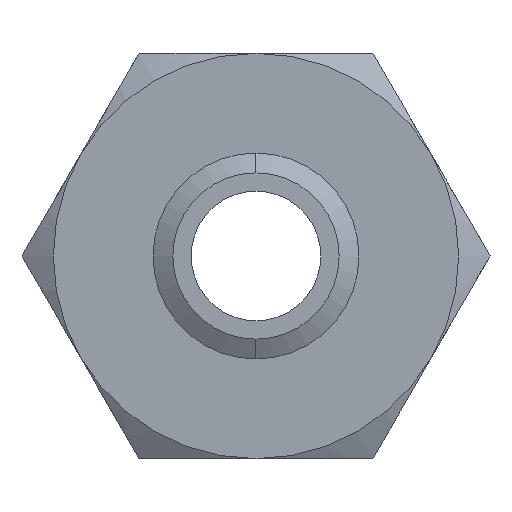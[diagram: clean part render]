
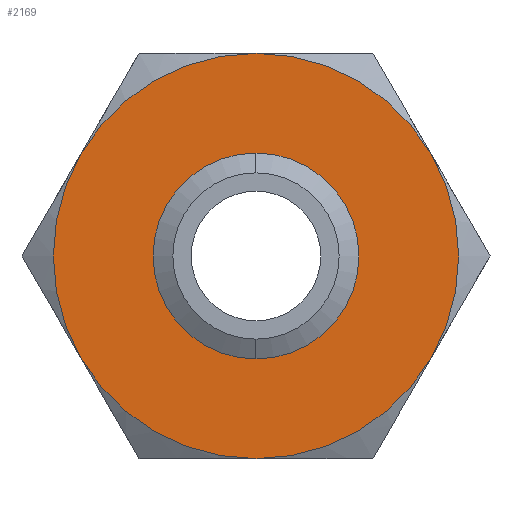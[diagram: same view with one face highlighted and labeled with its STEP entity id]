
A CAD part, front view. The second image highlights one B-rep face of the part: STEP entity #2169.
In plain terms, the highlighted planar face has unit normal (0, -1, 0).
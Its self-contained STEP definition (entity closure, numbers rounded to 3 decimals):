
#302 = VERTEX_POINT ( 'NONE', #956 ) ;
#319 = EDGE_CURVE ( 'NONE', #320, #302, #928, .T. ) ;
#320 = VERTEX_POINT ( 'NONE', #984 ) ;
#928 = CIRCLE ( 'NONE', #988, 15.387 ) ;
#956 = CARTESIAN_POINT ( 'NONE',  ( 0., 0., 15.387 ) ) ;
#963 = CARTESIAN_POINT ( 'NONE',  ( 0., 0., 0. ) ) ;
#964 = CARTESIAN_POINT ( 'NONE',  ( 0., 0., -37.5 ) ) ;
#965 = CARTESIAN_POINT ( 'NONE',  ( 0., 0., 37.5 ) ) ;
#966 = DIRECTION ( 'NONE',  ( 0., 0., 1. ) ) ;
#967 = DIRECTION ( 'NONE',  ( 0., 1., 0. ) ) ;
#968 = CARTESIAN_POINT ( 'NONE',  ( 0., 0., 0. ) ) ;
#969 = AXIS2_PLACEMENT_3D ( 'NONE', #968, #967, #966 ) ;
#970 = CIRCLE ( 'NONE', #969, 37.5 ) ;
#971 = CARTESIAN_POINT ( 'NONE',  ( -32.476, 0., -18.75 ) ) ;
#972 = DIRECTION ( 'NONE',  ( 0., 0., 1. ) ) ;
#973 = DIRECTION ( 'NONE',  ( 0., 1., 0. ) ) ;
#974 = CARTESIAN_POINT ( 'NONE',  ( 0., 0., 0. ) ) ;
#975 = AXIS2_PLACEMENT_3D ( 'NONE', #974, #973, #972 ) ;
#976 = CIRCLE ( 'NONE', #975, 37.5 ) ;
#984 = CARTESIAN_POINT ( 'NONE',  ( 0., 0., -15.387 ) ) ;
#985 = DIRECTION ( 'NONE',  ( 0., 0., -1. ) ) ;
#986 = DIRECTION ( 'NONE',  ( 0., -1., 0. ) ) ;
#987 = CARTESIAN_POINT ( 'NONE',  ( 0., 0., 0. ) ) ;
#988 = AXIS2_PLACEMENT_3D ( 'NONE', #987, #986, #985 ) ;
#992 = DIRECTION ( 'NONE',  ( 0., 0., 1. ) ) ;
#993 = DIRECTION ( 'NONE',  ( 0., 1., 0. ) ) ;
#994 = CARTESIAN_POINT ( 'NONE',  ( 0., 0., 0. ) ) ;
#995 = AXIS2_PLACEMENT_3D ( 'NONE', #994, #993, #992 ) ;
#996 = CIRCLE ( 'NONE', #995, 37.5 ) ;
#997 = DIRECTION ( 'NONE',  ( 0., 0., -1. ) ) ;
#998 = DIRECTION ( 'NONE',  ( 0., -1., 0. ) ) ;
#999 = CARTESIAN_POINT ( 'NONE',  ( 0., 0., 0. ) ) ;
#1000 = AXIS2_PLACEMENT_3D ( 'NONE', #999, #998, #997 ) ;
#1004 = CIRCLE ( 'NONE', #1000, 15.387 ) ;
#1014 = CARTESIAN_POINT ( 'NONE',  ( 32.476, 0., 18.75 ) ) ;
#1019 = DIRECTION ( 'NONE',  ( 0., 0., 1. ) ) ;
#1020 = DIRECTION ( 'NONE',  ( 0., 1., 0. ) ) ;
#1021 = AXIS2_PLACEMENT_3D ( 'NONE', #963, #1020, #1019 ) ;
#1022 = CIRCLE ( 'NONE', #1021, 37.5 ) ;
#1023 = DIRECTION ( 'NONE',  ( 0., 0., 1. ) ) ;
#1024 = DIRECTION ( 'NONE',  ( 0., 1., 0. ) ) ;
#1025 = CARTESIAN_POINT ( 'NONE',  ( 0., 0., 0. ) ) ;
#1026 = AXIS2_PLACEMENT_3D ( 'NONE', #1025, #1024, #1023 ) ;
#1027 = CIRCLE ( 'NONE', #1026, 37.5 ) ;
#1028 = CARTESIAN_POINT ( 'NONE',  ( -32.476, 0., 18.75 ) ) ;
#1037 = DIRECTION ( 'NONE',  ( 0., 0., 1. ) ) ;
#1038 = DIRECTION ( 'NONE',  ( 0., 1., 0. ) ) ;
#1039 = AXIS2_PLACEMENT_3D ( 'NONE', #1049, #1038, #1037 ) ;
#1040 = CIRCLE ( 'NONE', #1039, 37.5 ) ;
#1049 = CARTESIAN_POINT ( 'NONE',  ( 0., 0., 0. ) ) ;
#1052 = CARTESIAN_POINT ( 'NONE',  ( 32.476, 0., -18.75 ) ) ;
#1604 = DIRECTION ( 'NONE',  ( 0., 0., 1. ) ) ;
#1605 = DIRECTION ( 'NONE',  ( 0., 1., 0. ) ) ;
#1606 = CARTESIAN_POINT ( 'NONE',  ( 21.651, 0., -37.5 ) ) ;
#1607 = AXIS2_PLACEMENT_3D ( 'NONE', #1606, #1605, #1604 ) ;
#1608 = PLANE ( 'NONE',  #1607 ) ;
#1609 = FACE_BOUND ( 'NONE', #1851, .T. ) ;
#1615 = FACE_OUTER_BOUND ( 'NONE', #2166, .T. ) ;
#1831 = ORIENTED_EDGE ( 'NONE', *, *, #1834, .F. ) ;
#1832 = EDGE_CURVE ( 'NONE', #1871, #1836, #976, .T. ) ;
#1833 = VERTEX_POINT ( 'NONE', #971 ) ;
#1834 = EDGE_CURVE ( 'NONE', #1833, #1871, #970, .T. ) ;
#1835 = ORIENTED_EDGE ( 'NONE', *, *, #1832, .F. ) ;
#1836 = VERTEX_POINT ( 'NONE', #965 ) ;
#1837 = VERTEX_POINT ( 'NONE', #964 ) ;
#1839 = EDGE_CURVE ( 'NONE', #1836, #1842, #1022, .T. ) ;
#1842 = VERTEX_POINT ( 'NONE', #1014 ) ;
#1845 = ORIENTED_EDGE ( 'NONE', *, *, #319, .F. ) ;
#1847 = EDGE_CURVE ( 'NONE', #302, #320, #1004, .T. ) ;
#1848 = ORIENTED_EDGE ( 'NONE', *, *, #1847, .F. ) ;
#1849 = EDGE_CURVE ( 'NONE', #1842, #1854, #996, .T. ) ;
#1851 = EDGE_LOOP ( 'NONE', ( #1845, #1848 ) ) ;
#1854 = VERTEX_POINT ( 'NONE', #1052 ) ;
#1855 = ORIENTED_EDGE ( 'NONE', *, *, #1849, .F. ) ;
#1861 = EDGE_CURVE ( 'NONE', #1854, #1837, #1040, .T. ) ;
#1864 = ORIENTED_EDGE ( 'NONE', *, *, #1861, .F. ) ;
#1867 = ORIENTED_EDGE ( 'NONE', *, *, #1872, .F. ) ;
#1868 = ORIENTED_EDGE ( 'NONE', *, *, #1839, .F. ) ;
#1871 = VERTEX_POINT ( 'NONE', #1028 ) ;
#1872 = EDGE_CURVE ( 'NONE', #1837, #1833, #1027, .T. ) ;
#2166 = EDGE_LOOP ( 'NONE', ( #1868, #1835, #1831, #1867, #1864, #1855 ) ) ;
#2169 = ADVANCED_FACE ( 'NONE', ( #1615, #1609 ), #1608, .F. ) ;
